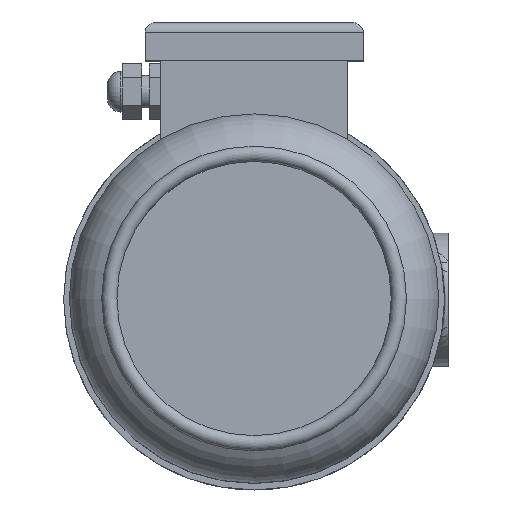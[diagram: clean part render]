
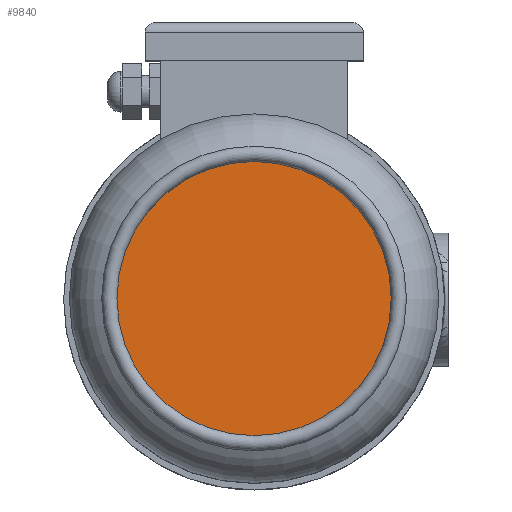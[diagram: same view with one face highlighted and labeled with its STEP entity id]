
A CAD part, top view. The second image highlights one B-rep face of the part: STEP entity #9840.
In plain terms, the highlighted planar face has unit normal (0, 0, 1).
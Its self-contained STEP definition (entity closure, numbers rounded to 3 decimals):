
#1187=CIRCLE('',#10908,72.);
#3970=ORIENTED_EDGE('',*,*,#5472,.F.);
#5472=EDGE_CURVE('',#6465,#6465,#1187,.T.);
#6465=VERTEX_POINT('',#20229);
#8421=EDGE_LOOP('',(#3970));
#9083=FACE_BOUND('',#8421,.T.);
#9285=PLANE('',#10907);
#9840=ADVANCED_FACE('',(#9083),#9285,.T.);
#10907=AXIS2_PLACEMENT_3D('',#20227,#13611,#13612);
#10908=AXIS2_PLACEMENT_3D('',#20228,#13613,#13614);
#13611=DIRECTION('',(0.,0.,1.));
#13612=DIRECTION('',(1.,0.,0.));
#13613=DIRECTION('',(0.,0.,-1.));
#13614=DIRECTION('',(-1.,0.,0.));
#20227=CARTESIAN_POINT('',(-72.,0.,632.64));
#20228=CARTESIAN_POINT('',(0.,0.,632.64));
#20229=CARTESIAN_POINT('',(-72.,0.,632.64));
